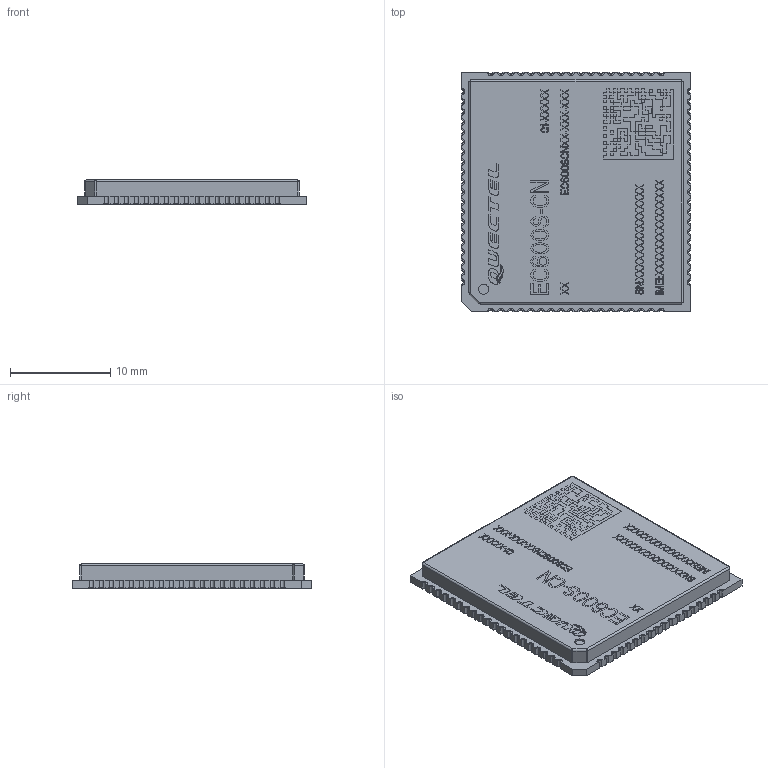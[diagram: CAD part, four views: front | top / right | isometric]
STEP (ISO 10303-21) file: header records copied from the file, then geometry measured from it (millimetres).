
FILE_DESCRIPTION((''),'2;1');
FILE_NAME('EC600S-CN_ASM','2020-09-02T',('cesare.chen'),(''),'CREO PARAMETRIC BY PTC INC, 2014190','CREO PARAMETRIC BY PTC INC, 2014190','');
FILE_SCHEMA(('CONFIG_CONTROL_DESIGN'));
Products named in the file (3): EC600S-CN_PCB; EC600S-CN_COVER; EC600S-CN_ASM
Assembly tree (2 placements, depth 2):
  EC600S-CN_ASM
    EC600S-CN_PCB
    EC600S-CN_COVER
Bounding box: 22.9 x 23.9 x 2.4 mm (x, y, z)
Volume: 551 mm3; surface area: 2388.5 mm2
Topology: 2 solids, 2 shells, 3150 faces, 8933 edges, 5884 vertices
Faces by surface type: plane 2991, cylinder 159
Entity records: 131432 total; most frequent: CARTESIAN_POINT 17993, ORIENTED_EDGE 17866, DIRECTION 15561, PRESENTATION_STYLE_ASSIGNMENT 9301, STYLED_ITEM 8935, CURVE_STYLE 8933, EDGE_CURVE 8933, VECTOR 8615
